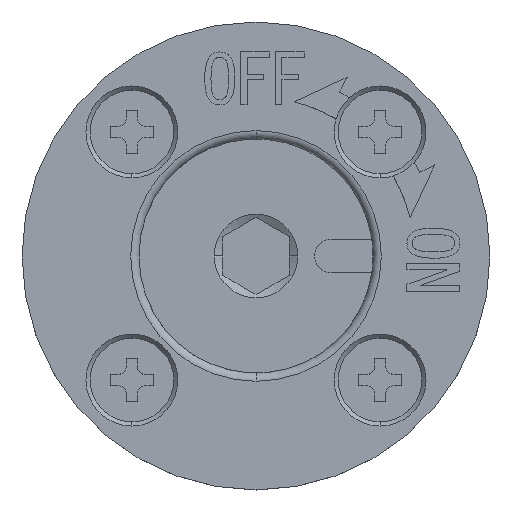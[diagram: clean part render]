
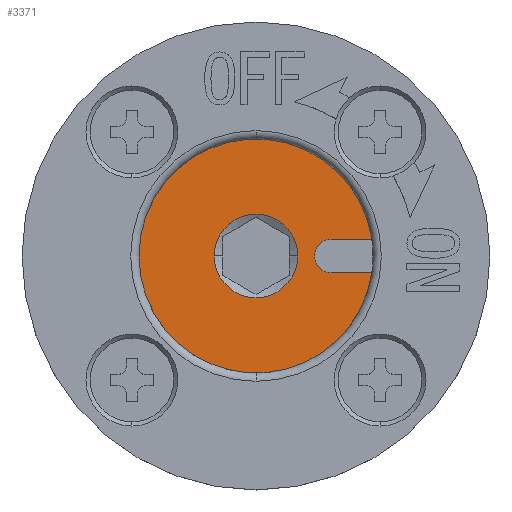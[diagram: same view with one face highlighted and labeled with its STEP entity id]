
A CAD part, top view. The second image highlights one B-rep face of the part: STEP entity #3371.
In plain terms, the highlighted planar face has unit normal (0, 0, 1) as drawn and (0, 1, 0) by its records, which use the part's own axes.
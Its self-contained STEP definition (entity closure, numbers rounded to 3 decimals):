
#243 = ORIENTED_EDGE ( 'NONE', *, *, #4896, .F. ) ;
#697 = AXIS2_PLACEMENT_3D ( 'NONE', #6631, #2887, #4649 ) ;
#783 = VERTEX_POINT ( 'NONE', #1902 ) ;
#1481 = LINE ( 'NONE', #8252, #7817 ) ;
#1552 = CIRCLE ( 'NONE', #8487, 2.5 ) ;
#1753 = ORIENTED_EDGE ( 'NONE', *, *, #4619, .F. ) ;
#1902 = CARTESIAN_POINT ( 'NONE',  ( -1., 0., -6.928 ) ) ;
#1917 = ORIENTED_EDGE ( 'NONE', *, *, #4503, .T. ) ;
#2023 = AXIS2_PLACEMENT_3D ( 'NONE', #8600, #5590, #4846 ) ;
#2070 = DIRECTION ( 'NONE',  ( 0., 0., 1. ) ) ;
#2466 = VERTEX_POINT ( 'NONE', #3729 ) ;
#2491 = EDGE_LOOP ( 'NONE', ( #3501, #1917 ) ) ;
#2628 = EDGE_CURVE ( 'NONE', #4957, #8467, #5546, .T. ) ;
#2647 = EDGE_CURVE ( 'NONE', #3814, #783, #5756, .T. ) ;
#2665 = CARTESIAN_POINT ( 'NONE',  ( 0., 0., 0. ) ) ;
#2679 = DIRECTION ( 'NONE',  ( 0., 0., -1. ) ) ;
#2887 = DIRECTION ( 'NONE',  ( 0., -1., 0. ) ) ;
#3006 = CARTESIAN_POINT ( 'NONE',  ( 0., 0., 2.5 ) ) ;
#3062 = CARTESIAN_POINT ( 'NONE',  ( 0., 0., 0. ) ) ;
#3212 = DIRECTION ( 'NONE',  ( 0., 0., 1. ) ) ;
#3224 = AXIS2_PLACEMENT_3D ( 'NONE', #3062, #4547, #8201 ) ;
#3356 = FACE_OUTER_BOUND ( 'NONE', #6221, .T. ) ;
#3371 = ADVANCED_FACE ( 'NONE', ( #3356, #9426 ), #7900, .T. ) ;
#3400 = CARTESIAN_POINT ( 'NONE',  ( 1., 0., -4.5 ) ) ;
#3414 = DIRECTION ( 'NONE',  ( 0., 1., 0. ) ) ;
#3421 = DIRECTION ( 'NONE',  ( 0., 0., -1. ) ) ;
#3496 = ORIENTED_EDGE ( 'NONE', *, *, #2647, .F. ) ;
#3501 = ORIENTED_EDGE ( 'NONE', *, *, #8348, .T. ) ;
#3682 = VERTEX_POINT ( 'NONE', #3006 ) ;
#3729 = CARTESIAN_POINT ( 'NONE',  ( 0., 0., -3.5 ) ) ;
#3814 = VERTEX_POINT ( 'NONE', #4131 ) ;
#3858 = CIRCLE ( 'NONE', #697, 2.5 ) ;
#3968 = ORIENTED_EDGE ( 'NONE', *, *, #8422, .F. ) ;
#4131 = CARTESIAN_POINT ( 'NONE',  ( 0., 0., 7. ) ) ;
#4472 = AXIS2_PLACEMENT_3D ( 'NONE', #8246, #5284, #8300 ) ;
#4473 = AXIS2_PLACEMENT_3D ( 'NONE', #2665, #5681, #3212 ) ;
#4503 = EDGE_CURVE ( 'NONE', #7698, #3682, #3858, .T. ) ;
#4547 = DIRECTION ( 'NONE',  ( 0., -1., 0. ) ) ;
#4619 = EDGE_CURVE ( 'NONE', #6222, #2466, #8746, .T. ) ;
#4649 = DIRECTION ( 'NONE',  ( 0., 0., -1. ) ) ;
#4806 = ORIENTED_EDGE ( 'NONE', *, *, #8375, .F. ) ;
#4846 = DIRECTION ( 'NONE',  ( 0., 0., -1. ) ) ;
#4896 = EDGE_CURVE ( 'NONE', #8467, #3814, #8436, .T. ) ;
#4957 = VERTEX_POINT ( 'NONE', #3400 ) ;
#5284 = DIRECTION ( 'NONE',  ( 0., -1., 0. ) ) ;
#5546 = LINE ( 'NONE', #6437, #9046 ) ;
#5590 = DIRECTION ( 'NONE',  ( 0., 1., 0. ) ) ;
#5681 = DIRECTION ( 'NONE',  ( 0., 1., 0. ) ) ;
#5756 = CIRCLE ( 'NONE', #3224, 7. ) ;
#5766 = CARTESIAN_POINT ( 'NONE',  ( 0., 0., -2.5 ) ) ;
#5935 = CARTESIAN_POINT ( 'NONE',  ( 1., 0., -6.928 ) ) ;
#6221 = EDGE_LOOP ( 'NONE', ( #9759, #4806, #1753, #3968, #3496, #243 ) ) ;
#6222 = VERTEX_POINT ( 'NONE', #6743 ) ;
#6281 = CIRCLE ( 'NONE', #2023, 1. ) ;
#6437 = CARTESIAN_POINT ( 'NONE',  ( 1., 0., -6.928 ) ) ;
#6471 = CARTESIAN_POINT ( 'NONE',  ( 0., 0., -4.5 ) ) ;
#6631 = CARTESIAN_POINT ( 'NONE',  ( 0., 0., 0. ) ) ;
#6743 = CARTESIAN_POINT ( 'NONE',  ( -1., 0., -4.5 ) ) ;
#7161 = AXIS2_PLACEMENT_3D ( 'NONE', #6471, #3414, #7752 ) ;
#7698 = VERTEX_POINT ( 'NONE', #5766 ) ;
#7752 = DIRECTION ( 'NONE',  ( 0., 0., -1. ) ) ;
#7817 = VECTOR ( 'NONE', #2070, 1000. ) ;
#7900 = PLANE ( 'NONE',  #4473 ) ;
#8201 = DIRECTION ( 'NONE',  ( 0., 0., -1. ) ) ;
#8246 = CARTESIAN_POINT ( 'NONE',  ( 0., 0., 0. ) ) ;
#8252 = CARTESIAN_POINT ( 'NONE',  ( -1., 0., -6.928 ) ) ;
#8300 = DIRECTION ( 'NONE',  ( 0., 0., -1. ) ) ;
#8348 = EDGE_CURVE ( 'NONE', #3682, #7698, #1552, .T. ) ;
#8375 = EDGE_CURVE ( 'NONE', #2466, #4957, #6281, .T. ) ;
#8422 = EDGE_CURVE ( 'NONE', #783, #6222, #1481, .T. ) ;
#8436 = CIRCLE ( 'NONE', #4472, 7. ) ;
#8467 = VERTEX_POINT ( 'NONE', #5935 ) ;
#8487 = AXIS2_PLACEMENT_3D ( 'NONE', #9433, #9534, #3421 ) ;
#8600 = CARTESIAN_POINT ( 'NONE',  ( 0., 0., -4.5 ) ) ;
#8746 = CIRCLE ( 'NONE', #7161, 1. ) ;
#9046 = VECTOR ( 'NONE', #2679, 1000. ) ;
#9426 = FACE_BOUND ( 'NONE', #2491, .T. ) ;
#9433 = CARTESIAN_POINT ( 'NONE',  ( 0., 0., 0. ) ) ;
#9534 = DIRECTION ( 'NONE',  ( 0., -1., 0. ) ) ;
#9759 = ORIENTED_EDGE ( 'NONE', *, *, #2628, .F. ) ;
